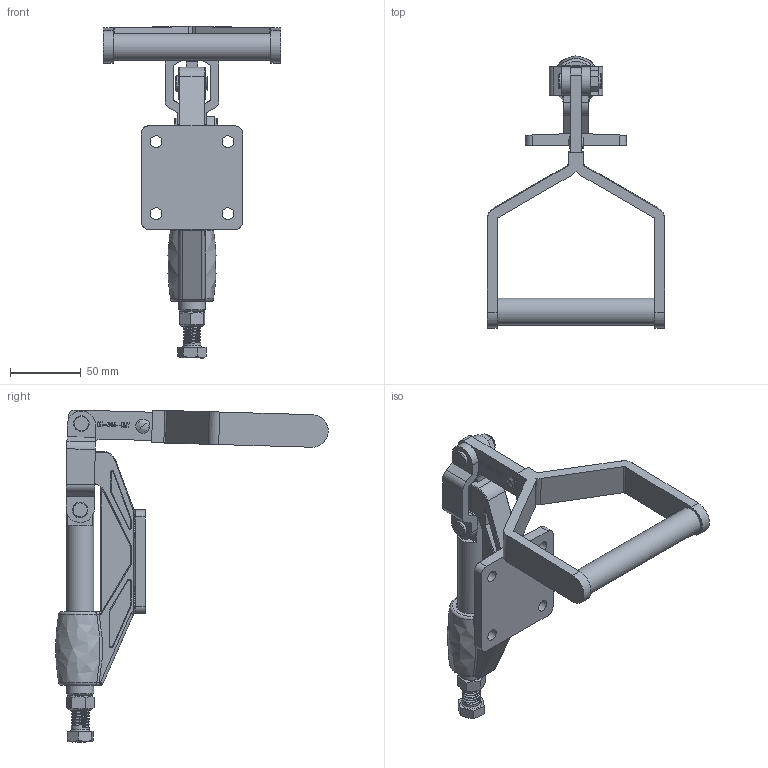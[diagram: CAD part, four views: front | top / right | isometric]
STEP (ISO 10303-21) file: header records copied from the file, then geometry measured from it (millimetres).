
FILE_DESCRIPTION(/* description */ ('STEP AP203'),/* implementation_level */ '2;1');
FILE_NAME(/* name */ 'D:\Vault_2016\Projekty\STRONA\Push-pull clamp\CH-305-HMY\CH-305-HMY_OTWARTY.stp',/* time_stamp */ '2019-01-10T15:05:22+01:00',/* author */ ('user'),/* organization */ ('Î¢ÈíÖÐ¹ú'),/* preprocessor_version */ 'ST-DEVELOPER v17.2',/* originating_system */ 'Autodesk Inventor 2019',/* authorisation */ '');
FILE_SCHEMA (('AUTOMOTIVE_DESIGN { 1 0 10303 214 3 1 1 }'));
Products named in the file (13): CH-305-HMY_OTWARTY; CH-304-HM-01 BASE; CH-304-HM-02 CREST STALK; CH-304-HM-07; CH-304-HM-04 CONNECTING-PLATE; 304-05; CH-304-HM-06; 5-16 LOCK NUT; M12 Nut; CH-SA-125017 SPINDLE SUPPLIED; CH-305-HMY HANDLE; CH-305-HMY-06; CH-305-HMY-087
Assembly tree (16 placements, depth 2):
  CH-305-HMY_OTWARTY
    CH-304-HM-01 BASE
    CH-304-HM-02 CREST STALK
    CH-304-HM-07  x2
    CH-304-HM-04 CONNECTING-PLATE  x2
    CH-304-HM-06  x2
    304-05
    5-16 LOCK NUT  x2
    M12 Nut
    CH-SA-125017 SPINDLE SUPPLIED
    CH-305-HMY HANDLE
    CH-305-HMY-06
    CH-305-HMY-087
Bounding box: 125.4 x 192.51 x 234.63 mm (x, y, z)
Volume: 266091.1 mm3; surface area: 137270.3 mm2
Topology: 16 solids, 17 shells, 2452 faces, 6483 edges, 4106 vertices
Faces by surface type: plane 1477, cylinder 691, bspline 217, cone 38, torus 26, sphere 3
Full cylindrical faces by diameter (mm): 2.617 x1, 3.283 x1, 6.034 x2, 6.4 x2, 6.5 x8, 8 x22, 8.3 x4, 10.5 x38, 11 x5, 11.5 x2, 12.7 x22, 16 x7, 19 x2, 19.2 x2
Entity records: 87630 total; most frequent: CARTESIAN_POINT 46967, ORIENTED_EDGE 8780, DIRECTION 7904, EDGE_CURVE 4390, VERTEX_POINT 2818, AXIS2_PLACEMENT_3D 2663, LINE 2578, VECTOR 2578
